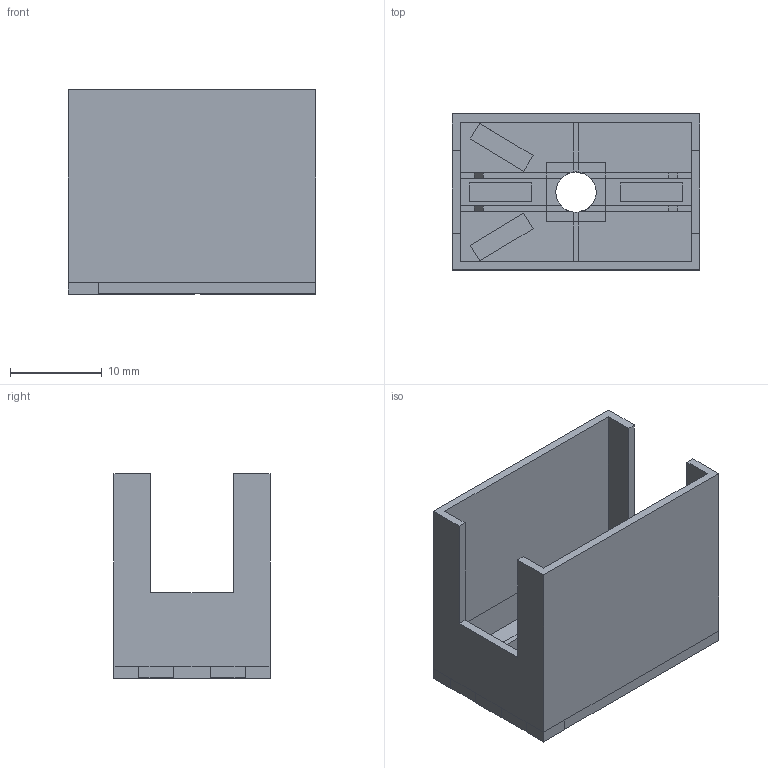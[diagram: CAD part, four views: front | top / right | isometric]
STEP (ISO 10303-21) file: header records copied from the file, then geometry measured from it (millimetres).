
FILE_DESCRIPTION(('FreeCAD Model'),'2;1');
FILE_NAME('Open CASCADE Shape Model','2025-03-09T22:40:16',(''),(''), 'Open CASCADE STEP processor 7.8','FreeCAD','Unknown');
FILE_SCHEMA(('AUTOMOTIVE_DESIGN { 1 0 10303 214 1 1 1 1 }'));
Length unit declared in the file: millimetre
Products named in the file (8): Weiche_DWW; Body; Fahrstrasse_1; Fahrstrasse_2; Ausleuchtung_1; Ausleuchtung_2; Ausleuchtung_3; Ausleuchtung_4
Assembly tree (7 placements, depth 2):
  Weiche_DWW
    Body
    Fahrstrasse_1
    Fahrstrasse_2
    Ausleuchtung_1
    Ausleuchtung_2
    Ausleuchtung_3
    Ausleuchtung_4
Bounding box: 27 x 17 x 22.3 mm (x, y, z)
Volume: 2348.8 mm3; surface area: 5078.1 mm2
Topology: 7 solids, 7 shells, 183 faces, 461 edges, 290 vertices
Faces by surface type: plane 180, cylinder 3
Full cylindrical faces by diameter (mm): 4.4 x1
Entity records: 5556 total; most frequent: CARTESIAN_POINT 942, ORIENTED_EDGE 922, DIRECTION 867, EDGE_CURVE 461, LINE 437, VECTOR 437, VERTEX_POINT 290, AXIS2_PLACEMENT_3D 215
